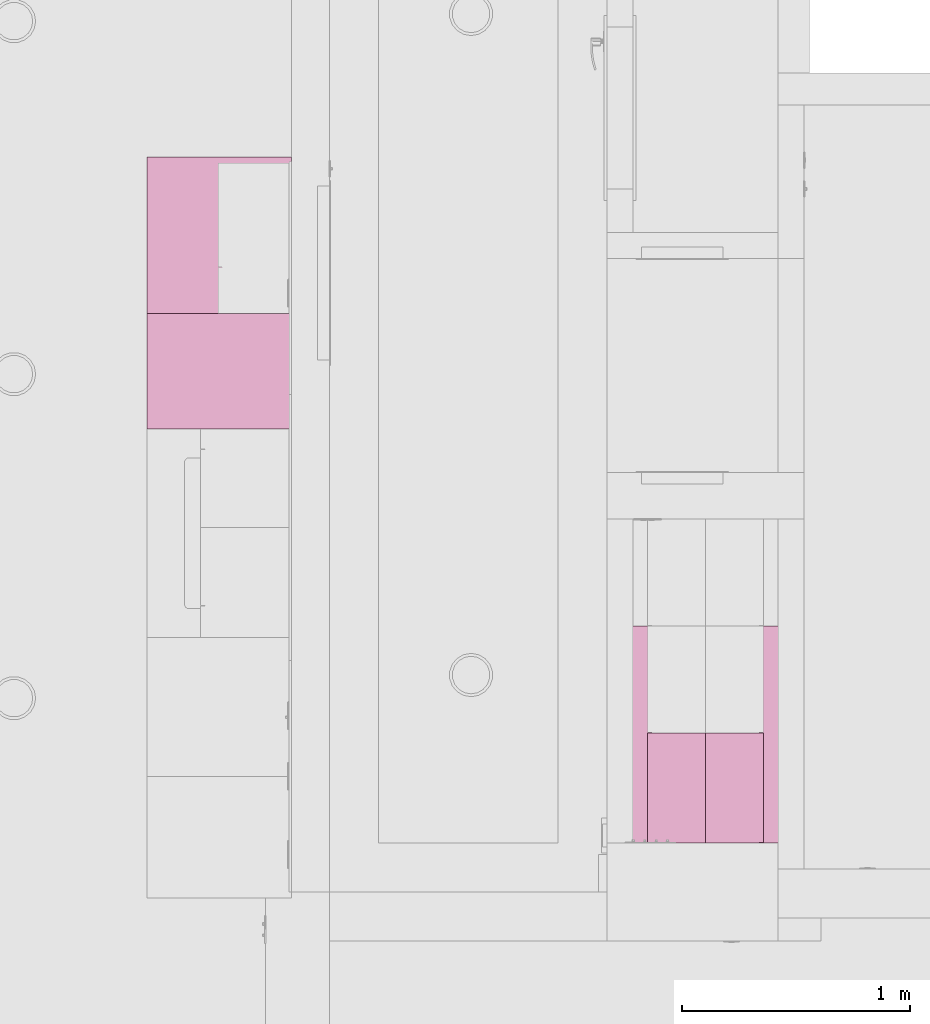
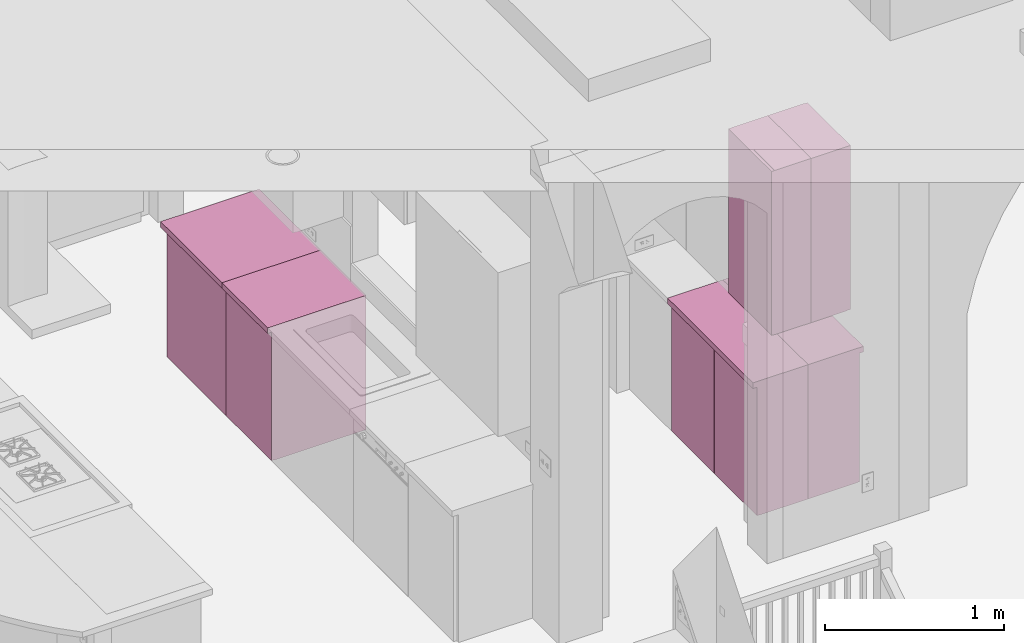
# One storey, part 48 of 103: 6 furnishings.
"""IFC2X3 building model written with IfcOpenShell, lengths in inches."""

from ifc_helpers import new_model, entity, si_unit, converted_unit, derived_unit, money_unit, direction, frame, origin_with_axes, place, context, subcontext, project, spatial, faceted_brep, type_object, element, save


model = new_model("IFC2X3")

# Units and contexts
model_context = context("Model", 3, precision=0.00039370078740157, world=origin_with_axes(), true_north=direction((0.0, 1.0)))
plan_context = context("Plan", 3, precision=0.00039370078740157, world=origin_with_axes(), true_north=direction((0.0, 1.0)))
body_context = subcontext(model_context, "Body", "Model", "MODEL_VIEW")
ifc_project = project(units=[converted_unit("LENGTHUNIT", "INCH", entity("IfcPositiveLengthMeasure", 0.0254), si_unit("LENGTHUNIT", "METRE"), dimensions=[1, 0, 0, 0, 0, 0, 0]), converted_unit("AREAUNIT", "SQUARE_FOOT", entity("IfcPositiveLengthMeasure", 0.09290304), si_unit("AREAUNIT", "SQUARE_METRE"), dimensions=[2, 0, 0, 0, 0, 0, 0]), si_unit("PLANEANGLEUNIT", "RADIAN"), si_unit("SOLIDANGLEUNIT", "STERADIAN"), money_unit("USD"), converted_unit("TIMEUNIT", "Year", entity("IfcTimeMeasure", 31557600.0), si_unit("TIMEUNIT", "SECOND"), dimensions=[0, 0, 1, 0, 0, 0, 0]), si_unit("MASSUNIT", "GRAM", prefix="KILO"), si_unit("THERMODYNAMICTEMPERATUREUNIT", "DEGREE_CELSIUS"), si_unit("LUMINOUSINTENSITYUNIT", "LUMEN"), si_unit("ENERGYUNIT", "JOULE", prefix="MEGA"), derived_unit("SPECIFICHEATCAPACITYUNIT", [(si_unit("ENERGYUNIT", "JOULE"), 1), (si_unit("MASSUNIT", "GRAM", prefix="KILO"), -1), (si_unit("THERMODYNAMICTEMPERATUREUNIT", "KELVIN"), -1)])], contexts=[model_context, plan_context])

# Site, building, storey
site_placement = place(None, origin_with_axes())
site = spatial("IfcSite", under=ifc_project, at=site_placement, Name="Site", CompositionType="ELEMENT")
building_placement = place(site_placement, origin_with_axes())
building = spatial("IfcBuilding", under=site, at=building_placement, Name="Building", CompositionType="ELEMENT")
storey_placement = place(building_placement, frame((0.0, 0.0, 127.9999999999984), z_axis=(0.0, 0.0, 1.0), x_axis=(1.0, 0.0, 0.0)))
storey = spatial("IfcBuildingStorey", under=building, at=storey_placement, Name="Second Floor", CompositionType="ELEMENT", Elevation=128.0)

# Furnishings
furniture_type_1 = type_object("IfcFurnitureType", Name="Base Cabinet Block", AssemblyPlace="NOTDEFINED")
furnishing_1_placement = place(storey_placement, frame((225.749999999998, 205.4999999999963, 0.0), z_axis=(0.0, 0.0, 1.0), x_axis=(0.0, 1.0, 0.0)))
element("IfcFurnishingElement", 1, at=furnishing_1_placement, inside=storey, type_object=furniture_type_1, Name="FU - 004", context=body_context, shape_type="Brep", body=[
    faceted_brep([(0.0, -13.99999999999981, 34.49999999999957), (37.50284154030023, -13.99999999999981, 34.49999999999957), (37.50284154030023, -13.99999999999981, 35.99999999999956), (0.0, -13.99999999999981, 35.99999999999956), (0.0, 0.0, 34.49999999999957), (37.50284154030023, 0.0, 34.49999999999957), (37.50284154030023, 0.0, 35.99999999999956), (0.0, 0.0, 35.99999999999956)], [[[0, 1, 2, 3]], [[0, 4, 5, 1]], [[1, 5, 6, 2]], [[3, 2, 6, 7]], [[4, 0, 3, 7]], [[5, 4, 7, 6]]]),
    faceted_brep([(0.039370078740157, -12.24999999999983, 0.039370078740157), (18.71205069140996, -12.24999999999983, 0.039370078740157), (18.71205069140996, -12.99999999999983, 0.03937007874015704), (0.039370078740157, -12.99999999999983, 0.03937007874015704), (0.039370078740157, -12.24999999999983, 34.46062992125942), (18.71205069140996, -12.24999999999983, 34.46062992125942), (18.71205069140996, -12.99999999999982, 34.46062992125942), (0.039370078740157, -12.99999999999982, 34.46062992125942)], [[[0, 1, 2, 3]], [[0, 4, 5, 1]], [[1, 5, 6, 2]], [[3, 2, 6, 7]], [[4, 0, 3, 7]], [[5, 4, 7, 6]]]),
    faceted_brep([(37.46347146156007, -12.24999999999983, 0.03937007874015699), (37.46347146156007, -12.99999999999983, 0.03937007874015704), (18.79079084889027, -12.99999999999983, 0.03937007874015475), (18.79079084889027, -12.24999999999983, 0.0393700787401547), (37.46347146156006, -12.24999999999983, 34.46062992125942), (37.46347146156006, -12.99999999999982, 34.46062992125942), (18.79079084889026, -12.99999999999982, 34.46062992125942), (18.79079084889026, -12.24999999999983, 34.46062992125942)], [[[0, 1, 2, 3]], [[4, 5, 1, 0]], [[1, 5, 6, 2]], [[3, 2, 6, 7]], [[0, 3, 7, 4]], [[7, 6, 5, 4]]]),
    faceted_brep([(0.7499999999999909, -12.24999999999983, 0.0), (36.75284154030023, -12.24999999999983, 0.0), (36.75284154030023, -12.24999999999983, 0.7499999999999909), (0.7499999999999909, -12.24999999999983, 0.7499999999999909), (0.7499999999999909, 0.0, 0.0), (36.75284154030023, 0.0, 0.0), (36.75284154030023, 0.0, 0.7499999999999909), (0.7499999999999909, 0.0, 0.7499999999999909)], [[[0, 1, 2, 3]], [[0, 4, 5, 1]], [[1, 5, 6, 2]], [[3, 2, 6, 7]], [[4, 0, 3, 7]], [[5, 4, 7, 6]]]),
    faceted_brep([(0.7499999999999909, -12.24999999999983, 33.74999999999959), (0.7499999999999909, -9.887795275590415, 33.74999999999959), (36.75284154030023, -9.887795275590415, 33.74999999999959), (36.75284154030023, -12.24999999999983, 33.74999999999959), (0.7499999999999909, -12.24999999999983, 34.49999999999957), (0.7499999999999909, -9.887795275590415, 34.49999999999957), (36.75284154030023, -9.887795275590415, 34.49999999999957), (36.75284154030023, -12.24999999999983, 34.49999999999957)], [[[0, 1, 2, 3]], [[0, 4, 5, 1]], [[1, 5, 6, 2]], [[3, 2, 6, 7]], [[4, 0, 3, 7]], [[5, 4, 7, 6]]]),
    faceted_brep([(36.75284154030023, 0.0, 33.74999999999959), (36.75284154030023, -2.36220472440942, 33.74999999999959), (0.7499999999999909, -2.36220472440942, 33.74999999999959), (0.7499999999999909, 0.0, 33.74999999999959), (36.75284154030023, 0.0, 34.49999999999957), (36.75284154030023, -2.36220472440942, 34.49999999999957), (0.7499999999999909, -2.36220472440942, 34.49999999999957), (0.7499999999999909, 0.0, 34.49999999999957)], [[[0, 1, 2, 3]], [[0, 4, 5, 1]], [[1, 5, 6, 2]], [[3, 2, 6, 7]], [[4, 0, 3, 7]], [[5, 4, 7, 6]]]),
    faceted_brep([(0.0, 0.0, 0.0), (0.0, -12.24999999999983, 0.0), (0.0, -12.24999999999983, 34.49999999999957), (0.0, 0.0, 34.49999999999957), (0.7499999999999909, 0.0, 0.0), (0.7499999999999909, -12.24999999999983, 0.0), (0.7499999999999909, -12.24999999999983, 34.49999999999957), (0.7499999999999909, 0.0, 34.49999999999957)], [[[0, 1, 2, 3]], [[0, 4, 5, 1]], [[1, 5, 6, 2]], [[3, 2, 6, 7]], [[4, 0, 3, 7]], [[5, 4, 7, 6]]]),
    faceted_brep([(37.50284154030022, -12.24999999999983, 0.0), (37.50284154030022, 0.0, 0.0), (37.50284154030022, 0.0, 34.49999999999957), (37.50284154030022, -12.24999999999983, 34.49999999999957), (36.75284154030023, -12.24999999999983, 0.0), (36.75284154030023, 0.0, 0.0), (36.75284154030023, 0.0, 34.49999999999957), (36.75284154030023, -12.24999999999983, 34.49999999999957)], [[[0, 1, 2, 3]], [[0, 4, 5, 1]], [[1, 5, 6, 2]], [[3, 2, 6, 7]], [[4, 0, 3, 7]], [[5, 4, 7, 6]]]),
    faceted_brep([(36.75284154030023, -0.3749999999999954, 0.7499999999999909), (0.7499999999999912, -0.3749999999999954, 0.7499999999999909), (0.7499999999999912, -0.3749999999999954, 33.74999999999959), (36.75284154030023, -0.3749999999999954, 33.74999999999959), (36.75284154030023, -0.7499999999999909, 0.7499999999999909), (0.7499999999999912, -0.7499999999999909, 0.7499999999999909), (0.7499999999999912, -0.7499999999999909, 33.74999999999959), (36.75284154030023, -0.7499999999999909, 33.74999999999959)], [[[0, 1, 2, 3]], [[0, 4, 5, 1]], [[1, 5, 6, 2]], [[3, 2, 6, 7]], [[4, 0, 3, 7]], [[5, 4, 7, 6]]]),
])
furnishing_2_placement = place(storey_placement, frame((154.9996173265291, 324.0007128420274, 0.0), z_axis=(0.0, 0.0, 1.0), x_axis=(2.019381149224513e-06, -0.9999999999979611, 0.0)))
element("IfcFurnishingElement", 2, at=furnishing_2_placement, inside=storey, type_object=furniture_type_1, Name="OBJ-16", context=body_context, shape_type="Brep", body=[
    faceted_brep([(0.0, -24.99999999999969, 34.49999999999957), (26.99999999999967, -24.99999999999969, 34.49999999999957), (26.99999999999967, -24.99999999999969, 35.99999999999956), (0.0, -24.99999999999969, 35.99999999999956), (0.0, 0.0, 34.49999999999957), (26.99999999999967, 0.0, 34.49999999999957), (26.99999999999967, 0.0, 35.99999999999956), (0.0, 0.0, 35.99999999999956)], [[[0, 1, 2, 3]], [[0, 4, 5, 1]], [[1, 5, 6, 2]], [[3, 2, 6, 7]], [[4, 0, 3, 7]], [[5, 4, 7, 6]]]),
    faceted_brep([(1.039370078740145, -23.24999999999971, 0.039370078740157), (13.96062992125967, -23.24999999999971, 0.039370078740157), (13.96062992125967, -23.9999999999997, 0.03937007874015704), (1.039370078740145, -23.9999999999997, 0.03937007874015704), (1.039370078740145, -23.24999999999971, 34.46062992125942), (13.96062992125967, -23.24999999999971, 34.46062992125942), (13.96062992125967, -23.9999999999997, 34.46062992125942), (1.039370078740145, -23.9999999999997, 34.46062992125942)], [[[0, 1, 2, 3]], [[0, 4, 5, 1]], [[1, 5, 6, 2]], [[3, 2, 6, 7]], [[4, 0, 3, 7]], [[5, 4, 7, 6]]]),
    faceted_brep([(26.96062992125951, -23.24999999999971, 0.03937007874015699), (26.96062992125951, -23.9999999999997, 0.03937007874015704), (14.03937007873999, -23.9999999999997, 0.03937007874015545), (14.03937007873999, -23.24999999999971, 0.03937007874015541), (26.96062992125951, -23.24999999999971, 34.46062992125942), (26.96062992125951, -23.9999999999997, 34.46062992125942), (14.03937007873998, -23.9999999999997, 34.46062992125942), (14.03937007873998, -23.24999999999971, 34.46062992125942)], [[[0, 1, 2, 3]], [[4, 5, 1, 0]], [[1, 5, 6, 2]], [[3, 2, 6, 7]], [[0, 3, 7, 4]], [[7, 6, 5, 4]]]),
    faceted_brep([(0.9999999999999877, -0.039370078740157, 0.039370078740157), (0.9999999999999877, -23.21062992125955, 0.039370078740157), (0.2499999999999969, -23.21062992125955, 0.03937007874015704), (0.2499999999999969, -0.039370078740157, 0.03937007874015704), (0.9999999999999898, -0.039370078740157, 34.46062992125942), (0.9999999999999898, -23.21062992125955, 34.46062992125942), (0.2499999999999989, -23.21062992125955, 34.46062992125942), (0.2499999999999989, -0.039370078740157, 34.46062992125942)], [[[0, 1, 2, 3]], [[0, 4, 5, 1]], [[1, 5, 6, 2]], [[3, 2, 6, 7]], [[4, 0, 3, 7]], [[5, 4, 7, 6]]]),
    faceted_brep([(1.749999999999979, -23.24999999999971, 0.0), (26.24999999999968, -23.24999999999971, 0.0), (26.24999999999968, -23.24999999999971, 0.7499999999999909), (1.749999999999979, -23.24999999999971, 0.7499999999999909), (1.749999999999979, 0.0, 0.0), (26.24999999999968, 0.0, 0.0), (26.24999999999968, 0.0, 0.7499999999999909), (1.749999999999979, 0.0, 0.7499999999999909)], [[[0, 1, 2, 3]], [[0, 4, 5, 1]], [[1, 5, 6, 2]], [[3, 2, 6, 7]], [[4, 0, 3, 7]], [[5, 4, 7, 6]]]),
    faceted_brep([(1.749999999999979, -23.24999999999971, 33.74999999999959), (1.749999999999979, -20.88779527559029, 33.74999999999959), (26.24999999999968, -20.88779527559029, 33.74999999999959), (26.24999999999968, -23.24999999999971, 33.74999999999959), (1.749999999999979, -23.24999999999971, 34.49999999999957), (1.749999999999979, -20.88779527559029, 34.49999999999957), (26.24999999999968, -20.88779527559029, 34.49999999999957), (26.24999999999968, -23.24999999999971, 34.49999999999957)], [[[0, 1, 2, 3]], [[0, 4, 5, 1]], [[1, 5, 6, 2]], [[3, 2, 6, 7]], [[4, 0, 3, 7]], [[5, 4, 7, 6]]]),
    faceted_brep([(26.24999999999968, 0.0, 33.74999999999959), (26.24999999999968, -2.36220472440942, 33.74999999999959), (1.749999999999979, -2.36220472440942, 33.74999999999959), (1.749999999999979, 0.0, 33.74999999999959), (26.24999999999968, 0.0, 34.49999999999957), (26.24999999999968, -2.36220472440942, 34.49999999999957), (1.749999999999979, -2.36220472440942, 34.49999999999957), (1.749999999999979, 0.0, 34.49999999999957)], [[[0, 1, 2, 3]], [[0, 4, 5, 1]], [[1, 5, 6, 2]], [[3, 2, 6, 7]], [[4, 0, 3, 7]], [[5, 4, 7, 6]]]),
    faceted_brep([(0.9999999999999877, 0.0, 0.0), (0.9999999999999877, -23.24999999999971, 0.0), (0.9999999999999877, -23.24999999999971, 34.49999999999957), (0.9999999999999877, 0.0, 34.49999999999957), (1.749999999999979, 0.0, 0.0), (1.749999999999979, -23.24999999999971, 0.0), (1.749999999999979, -23.24999999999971, 34.49999999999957), (1.749999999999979, 0.0, 34.49999999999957)], [[[0, 1, 2, 3]], [[0, 4, 5, 1]], [[1, 5, 6, 2]], [[3, 2, 6, 7]], [[4, 0, 3, 7]], [[5, 4, 7, 6]]]),
    faceted_brep([(26.99999999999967, -23.24999999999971, 0.0), (26.99999999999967, 0.0, 0.0), (26.99999999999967, 0.0, 34.49999999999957), (26.99999999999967, -23.24999999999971, 34.49999999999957), (26.24999999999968, -23.24999999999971, 0.0), (26.24999999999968, 0.0, 0.0), (26.24999999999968, 0.0, 34.49999999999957), (26.24999999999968, -23.24999999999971, 34.49999999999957)], [[[0, 1, 2, 3]], [[0, 4, 5, 1]], [[1, 5, 6, 2]], [[3, 2, 6, 7]], [[4, 0, 3, 7]], [[5, 4, 7, 6]]]),
    faceted_brep([(26.24999999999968, -0.3749999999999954, 0.7499999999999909), (1.749999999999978, -0.3749999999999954, 0.7499999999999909), (1.749999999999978, -0.3749999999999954, 33.74999999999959), (26.24999999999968, -0.3749999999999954, 33.74999999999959), (26.24999999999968, -0.7499999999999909, 0.7499999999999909), (1.749999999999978, -0.7499999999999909, 0.7499999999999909), (1.749999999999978, -0.7499999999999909, 33.74999999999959), (26.24999999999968, -0.7499999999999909, 33.74999999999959)], [[[0, 1, 2, 3]], [[0, 4, 5, 1]], [[1, 5, 6, 2]], [[3, 2, 6, 7]], [[4, 0, 3, 7]], [[5, 4, 7, 6]]]),
])
furnishing_3_placement = place(storey_placement, frame((154.99967184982, 297.0007128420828, 0.0), z_axis=(0.0, 0.0, 1.0), x_axis=(2.019381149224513e-06, -0.9999999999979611, 0.0)))
element("IfcFurnishingElement", 3, at=furnishing_3_placement, inside=storey, type_object=furniture_type_1, Name="OBJ-16", context=body_context, shape_type="Brep", body=[
    faceted_brep([(0.0, -24.99999999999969, 34.49999999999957), (19.99999999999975, -24.99999999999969, 34.49999999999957), (19.99999999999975, -24.99999999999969, 35.99999999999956), (0.0, -24.99999999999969, 35.99999999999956), (0.0, 0.0, 34.49999999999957), (19.99999999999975, 0.0, 34.49999999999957), (19.99999999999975, 0.0, 35.99999999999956), (0.0, 0.0, 35.99999999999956)], [[[0, 1, 2, 3]], [[0, 4, 5, 1]], [[1, 5, 6, 2]], [[3, 2, 6, 7]], [[4, 0, 3, 7]], [[5, 4, 7, 6]]]),
    faceted_brep([(0.039370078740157, -23.24999999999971, 0.039370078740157), (19.9606299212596, -23.24999999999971, 0.039370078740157), (19.9606299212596, -23.9999999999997, 0.03937007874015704), (0.039370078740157, -23.9999999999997, 0.03937007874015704), (0.039370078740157, -23.24999999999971, 34.46062992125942), (19.9606299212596, -23.24999999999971, 34.46062992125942), (19.9606299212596, -23.9999999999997, 34.46062992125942), (0.039370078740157, -23.9999999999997, 34.46062992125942)], [[[0, 1, 2, 3]], [[0, 4, 5, 1]], [[1, 5, 6, 2]], [[3, 2, 6, 7]], [[4, 0, 3, 7]], [[5, 4, 7, 6]]]),
    faceted_brep([(0.7499999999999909, -23.24999999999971, 0.0), (19.24999999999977, -23.24999999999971, 0.0), (19.24999999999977, -23.24999999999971, 0.7499999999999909), (0.7499999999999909, -23.24999999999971, 0.7499999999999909), (0.7499999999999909, 0.0, 0.0), (19.24999999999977, 0.0, 0.0), (19.24999999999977, 0.0, 0.7499999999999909), (0.7499999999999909, 0.0, 0.7499999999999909)], [[[0, 1, 2, 3]], [[0, 4, 5, 1]], [[1, 5, 6, 2]], [[3, 2, 6, 7]], [[4, 0, 3, 7]], [[5, 4, 7, 6]]]),
    faceted_brep([(0.7499999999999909, -23.24999999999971, 33.74999999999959), (0.7499999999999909, -20.88779527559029, 33.74999999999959), (19.24999999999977, -20.88779527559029, 33.74999999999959), (19.24999999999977, -23.24999999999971, 33.74999999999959), (0.7499999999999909, -23.24999999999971, 34.49999999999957), (0.7499999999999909, -20.88779527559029, 34.49999999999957), (19.24999999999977, -20.88779527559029, 34.49999999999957), (19.24999999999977, -23.24999999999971, 34.49999999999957)], [[[0, 1, 2, 3]], [[0, 4, 5, 1]], [[1, 5, 6, 2]], [[3, 2, 6, 7]], [[4, 0, 3, 7]], [[5, 4, 7, 6]]]),
    faceted_brep([(19.24999999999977, 0.0, 33.74999999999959), (19.24999999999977, -2.36220472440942, 33.74999999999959), (0.7499999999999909, -2.36220472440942, 33.74999999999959), (0.7499999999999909, 0.0, 33.74999999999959), (19.24999999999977, 0.0, 34.49999999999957), (19.24999999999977, -2.36220472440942, 34.49999999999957), (0.7499999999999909, -2.36220472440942, 34.49999999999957), (0.7499999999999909, 0.0, 34.49999999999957)], [[[0, 1, 2, 3]], [[0, 4, 5, 1]], [[1, 5, 6, 2]], [[3, 2, 6, 7]], [[4, 0, 3, 7]], [[5, 4, 7, 6]]]),
    faceted_brep([(0.0, 0.0, 0.0), (0.0, -23.24999999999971, 0.0), (0.0, -23.24999999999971, 34.49999999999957), (0.0, 0.0, 34.49999999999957), (0.7499999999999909, 0.0, 0.0), (0.7499999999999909, -23.24999999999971, 0.0), (0.7499999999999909, -23.24999999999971, 34.49999999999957), (0.7499999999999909, 0.0, 34.49999999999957)], [[[0, 1, 2, 3]], [[0, 4, 5, 1]], [[1, 5, 6, 2]], [[3, 2, 6, 7]], [[4, 0, 3, 7]], [[5, 4, 7, 6]]]),
    faceted_brep([(19.99999999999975, -23.24999999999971, 0.0), (19.99999999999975, 0.0, 0.0), (19.99999999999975, 0.0, 34.49999999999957), (19.99999999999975, -23.24999999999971, 34.49999999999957), (19.24999999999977, -23.24999999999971, 0.0), (19.24999999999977, 0.0, 0.0), (19.24999999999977, 0.0, 34.49999999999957), (19.24999999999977, -23.24999999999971, 34.49999999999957)], [[[0, 1, 2, 3]], [[0, 4, 5, 1]], [[1, 5, 6, 2]], [[3, 2, 6, 7]], [[4, 0, 3, 7]], [[5, 4, 7, 6]]]),
    faceted_brep([(19.24999999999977, -0.3749999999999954, 0.7499999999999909), (0.7499999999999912, -0.3749999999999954, 0.7499999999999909), (0.7499999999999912, -0.3749999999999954, 33.74999999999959), (19.24999999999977, -0.3749999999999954, 33.74999999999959), (19.24999999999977, -0.7499999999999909, 0.7499999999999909), (0.7499999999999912, -0.7499999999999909, 0.7499999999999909), (0.7499999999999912, -0.7499999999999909, 33.74999999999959), (19.24999999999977, -0.7499999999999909, 33.74999999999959)], [[[0, 1, 2, 3]], [[0, 4, 5, 1]], [[1, 5, 6, 2]], [[3, 2, 6, 7]], [[4, 0, 3, 7]], [[5, 4, 7, 6]]]),
])
furnishing_4_placement = place(storey_placement, frame((225.749999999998, 205.4999999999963, 0.0), z_axis=(0.0, 0.0, 1.0), x_axis=(0.0, -1.0, 0.0)))
element("IfcFurnishingElement", 4, at=furnishing_4_placement, inside=storey, type_object=furniture_type_1, Name="FU - 004", context=body_context, shape_type="Brep", body=[
    faceted_brep([(0.0, -13.99999999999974, 34.49999999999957), (0.0, -13.99999999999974, 35.99999999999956), (-37.50284154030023, -13.99999999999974, 35.99999999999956), (-37.50284154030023, -13.99999999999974, 34.49999999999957), (0.0, 0.0, 34.49999999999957), (0.0, 0.0, 35.99999999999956), (-37.50284154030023, 0.0, 35.99999999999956), (-37.50284154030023, 0.0, 34.49999999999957)], [[[0, 1, 2, 3]], [[4, 5, 1, 0]], [[1, 5, 6, 2]], [[3, 2, 6, 7]], [[0, 3, 7, 4]], [[7, 6, 5, 4]]]),
    faceted_brep([(-0.039370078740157, -12.24999999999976, 0.039370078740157), (-0.039370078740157, -12.99999999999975, 0.03937007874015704), (-18.71205069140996, -12.99999999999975, 0.03937007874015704), (-18.71205069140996, -12.24999999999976, 0.039370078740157), (-0.039370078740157, -12.24999999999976, 34.46062992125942), (-0.039370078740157, -12.99999999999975, 34.46062992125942), (-18.71205069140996, -12.99999999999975, 34.46062992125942), (-18.71205069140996, -12.24999999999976, 34.46062992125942)], [[[0, 1, 2, 3]], [[4, 5, 1, 0]], [[1, 5, 6, 2]], [[3, 2, 6, 7]], [[0, 3, 7, 4]], [[7, 6, 5, 4]]]),
    faceted_brep([(-37.46347146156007, -12.24999999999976, 0.03937007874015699), (-18.79079084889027, -12.24999999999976, 0.0393700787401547), (-18.79079084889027, -12.99999999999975, 0.03937007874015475), (-37.46347146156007, -12.99999999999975, 0.03937007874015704), (-37.46347146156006, -12.24999999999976, 34.46062992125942), (-18.79079084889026, -12.24999999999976, 34.46062992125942), (-18.79079084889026, -12.99999999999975, 34.46062992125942), (-37.46347146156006, -12.99999999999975, 34.46062992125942)], [[[0, 1, 2, 3]], [[0, 4, 5, 1]], [[1, 5, 6, 2]], [[3, 2, 6, 7]], [[4, 0, 3, 7]], [[5, 4, 7, 6]]]),
    faceted_brep([(-0.7499999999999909, -12.24999999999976, 0.0), (-0.7499999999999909, -12.24999999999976, 0.7499999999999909), (-36.75284154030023, -12.24999999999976, 0.7499999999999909), (-36.75284154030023, -12.24999999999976, 0.0), (-0.7499999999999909, 0.0, 0.0), (-0.7499999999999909, 0.0, 0.7499999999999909), (-36.75284154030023, 0.0, 0.7499999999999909), (-36.75284154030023, 0.0, 0.0)], [[[0, 1, 2, 3]], [[4, 5, 1, 0]], [[1, 5, 6, 2]], [[3, 2, 6, 7]], [[0, 3, 7, 4]], [[7, 6, 5, 4]]]),
    faceted_brep([(-0.7499999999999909, -12.24999999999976, 33.74999999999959), (-36.75284154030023, -12.24999999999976, 33.74999999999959), (-36.75284154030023, -9.887795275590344, 33.74999999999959), (-0.7499999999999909, -9.887795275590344, 33.74999999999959), (-0.7499999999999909, -12.24999999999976, 34.49999999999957), (-36.75284154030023, -12.24999999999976, 34.49999999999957), (-36.75284154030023, -9.887795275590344, 34.49999999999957), (-0.7499999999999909, -9.887795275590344, 34.49999999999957)], [[[0, 1, 2, 3]], [[4, 5, 1, 0]], [[1, 5, 6, 2]], [[3, 2, 6, 7]], [[0, 3, 7, 4]], [[7, 6, 5, 4]]]),
    faceted_brep([(-36.75284154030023, 0.0, 33.74999999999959), (-0.7499999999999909, 0.0, 33.74999999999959), (-0.7499999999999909, -2.36220472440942, 33.74999999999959), (-36.75284154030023, -2.36220472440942, 33.74999999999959), (-36.75284154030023, 0.0, 34.49999999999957), (-0.7499999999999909, 0.0, 34.49999999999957), (-0.7499999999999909, -2.36220472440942, 34.49999999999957), (-36.75284154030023, -2.36220472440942, 34.49999999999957)], [[[0, 1, 2, 3]], [[4, 5, 1, 0]], [[1, 5, 6, 2]], [[3, 2, 6, 7]], [[0, 3, 7, 4]], [[7, 6, 5, 4]]]),
    faceted_brep([(0.0, 0.0, 0.0), (0.0, 0.0, 34.49999999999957), (0.0, -12.24999999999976, 34.49999999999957), (0.0, -12.24999999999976, 0.0), (-0.7499999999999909, 0.0, 0.0), (-0.7499999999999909, 0.0, 34.49999999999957), (-0.7499999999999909, -12.24999999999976, 34.49999999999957), (-0.7499999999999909, -12.24999999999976, 0.0)], [[[0, 1, 2, 3]], [[4, 5, 1, 0]], [[1, 5, 6, 2]], [[3, 2, 6, 7]], [[0, 3, 7, 4]], [[7, 6, 5, 4]]]),
    faceted_brep([(-37.50284154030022, -12.24999999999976, 0.0), (-37.50284154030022, -12.24999999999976, 34.49999999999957), (-37.50284154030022, 0.0, 34.49999999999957), (-37.50284154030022, 0.0, 0.0), (-36.75284154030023, -12.24999999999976, 0.0), (-36.75284154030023, -12.24999999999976, 34.49999999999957), (-36.75284154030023, 0.0, 34.49999999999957), (-36.75284154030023, 0.0, 0.0)], [[[0, 1, 2, 3]], [[4, 5, 1, 0]], [[1, 5, 6, 2]], [[3, 2, 6, 7]], [[0, 3, 7, 4]], [[7, 6, 5, 4]]]),
    faceted_brep([(-36.75284154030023, -0.3749999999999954, 0.7499999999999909), (-36.75284154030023, -0.3749999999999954, 33.74999999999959), (-0.7499999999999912, -0.3749999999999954, 33.74999999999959), (-0.7499999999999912, -0.3749999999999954, 0.7499999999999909), (-36.75284154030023, -0.7499999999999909, 0.7499999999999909), (-36.75284154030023, -0.7499999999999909, 33.74999999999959), (-0.7499999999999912, -0.7499999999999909, 33.74999999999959), (-0.7499999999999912, -0.7499999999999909, 0.7499999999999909)], [[[0, 1, 2, 3]], [[4, 5, 1, 0]], [[1, 5, 6, 2]], [[3, 2, 6, 7]], [[0, 3, 7, 4]], [[7, 6, 5, 4]]]),
])
furniture_type_2 = type_object("IfcFurnitureType", Name="Wall Cabinet Block", AssemblyPlace="NOTDEFINED")
furnishing_5_placement = place(storey_placement, frame((226.4999999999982, 205.4999999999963, -12.99999999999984), z_axis=(0.0, 0.0, 1.0), x_axis=(0.0, -1.0, 0.0)))
element("IfcFurnishingElement", 5, at=furnishing_5_placement, inside=storey, type_object=furniture_type_2, Name="FU - 005", context=body_context, shape_type="Brep", body=[
    faceted_brep([(-0.039370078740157, -9.249999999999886, 60.03937007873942), (-0.039370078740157, -9.999999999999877, 60.03937007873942), (-18.96347146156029, -9.999999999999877, 60.03937007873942), (-18.96347146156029, -9.249999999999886, 60.03937007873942), (-0.039370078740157, -9.249999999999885, 103.9606299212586), (-0.039370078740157, -9.999999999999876, 103.9606299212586), (-18.96347146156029, -9.999999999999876, 103.9606299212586), (-18.96347146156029, -9.249999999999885, 103.9606299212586)], [[[0, 1, 2, 3]], [[4, 5, 1, 0]], [[1, 5, 6, 2]], [[3, 2, 6, 7]], [[0, 3, 7, 4]], [[7, 6, 5, 4]]]),
    faceted_brep([(-0.7499999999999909, -9.249999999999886, 59.99999999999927), (-0.7499999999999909, -9.249999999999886, 60.74999999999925), (-18.25284154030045, -9.249999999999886, 60.74999999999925), (-18.25284154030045, -9.249999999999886, 59.99999999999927), (-0.7499999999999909, 0.0, 59.99999999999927), (-0.7499999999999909, 0.0, 60.74999999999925), (-18.25284154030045, 0.0, 60.74999999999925), (-18.25284154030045, 0.0, 59.99999999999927)], [[[0, 1, 2, 3]], [[4, 5, 1, 0]], [[1, 5, 6, 2]], [[3, 2, 6, 7]], [[0, 3, 7, 4]], [[7, 6, 5, 4]]]),
    faceted_brep([(-0.7499999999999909, -9.249999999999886, 103.2499999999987), (-0.7499999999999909, -9.249999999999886, 103.9999999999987), (-18.25284154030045, -9.249999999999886, 103.9999999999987), (-18.25284154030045, -9.249999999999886, 103.2499999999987), (-0.7499999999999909, 0.0, 103.2499999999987), (-0.7499999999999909, 0.0, 103.9999999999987), (-18.25284154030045, 0.0, 103.9999999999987), (-18.25284154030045, 0.0, 103.2499999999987)], [[[0, 1, 2, 3]], [[4, 5, 1, 0]], [[1, 5, 6, 2]], [[3, 2, 6, 7]], [[0, 3, 7, 4]], [[7, 6, 5, 4]]]),
    faceted_brep([(0.0, 0.0, 59.99999999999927), (0.0, 0.0, 103.9999999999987), (0.0, -9.249999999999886, 103.9999999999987), (0.0, -9.249999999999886, 59.99999999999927), (-0.7499999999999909, 0.0, 59.99999999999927), (-0.7499999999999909, 0.0, 103.9999999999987), (-0.7499999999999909, -9.249999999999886, 103.9999999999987), (-0.7499999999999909, -9.249999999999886, 59.99999999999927)], [[[0, 1, 2, 3]], [[4, 5, 1, 0]], [[1, 5, 6, 2]], [[3, 2, 6, 7]], [[0, 3, 7, 4]], [[7, 6, 5, 4]]]),
    faceted_brep([(-19.00284154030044, -9.249999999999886, 59.99999999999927), (-19.00284154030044, -9.249999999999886, 103.9999999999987), (-19.00284154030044, 0.0, 103.9999999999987), (-19.00284154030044, 0.0, 59.99999999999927), (-18.25284154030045, -9.249999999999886, 59.99999999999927), (-18.25284154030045, -9.249999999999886, 103.9999999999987), (-18.25284154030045, 0.0, 103.9999999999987), (-18.25284154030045, 0.0, 59.99999999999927)], [[[0, 1, 2, 3]], [[4, 5, 1, 0]], [[1, 5, 6, 2]], [[3, 2, 6, 7]], [[0, 3, 7, 4]], [[7, 6, 5, 4]]]),
    faceted_brep([(-18.25284154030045, -0.3749999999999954, 60.74999999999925), (-18.25284154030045, -0.3749999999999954, 103.2499999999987), (-0.7499999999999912, -0.3749999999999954, 103.2499999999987), (-0.7499999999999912, -0.3749999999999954, 60.74999999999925), (-18.25284154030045, -0.7499999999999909, 60.74999999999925), (-18.25284154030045, -0.7499999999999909, 103.2499999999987), (-0.7499999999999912, -0.7499999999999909, 103.2499999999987), (-0.7499999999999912, -0.7499999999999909, 60.74999999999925)], [[[0, 1, 2, 3]], [[4, 5, 1, 0]], [[1, 5, 6, 2]], [[3, 2, 6, 7]], [[0, 3, 7, 4]], [[7, 6, 5, 4]]]),
])
furnishing_6_placement = place(storey_placement, frame((226.4999999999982, 205.4999999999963, -12.99999999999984), z_axis=(0.0, 0.0, 1.0), x_axis=(0.0, 1.0, 0.0)))
element("IfcFurnishingElement", 6, at=furnishing_6_placement, inside=storey, type_object=furniture_type_2, Name="FU - 005", context=body_context, shape_type="Brep", body=[
    faceted_brep([(0.039370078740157, -9.249999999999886, 60.03937007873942), (18.96347146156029, -9.249999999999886, 60.03937007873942), (18.96347146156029, -9.999999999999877, 60.03937007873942), (0.039370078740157, -9.999999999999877, 60.03937007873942), (0.039370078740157, -9.249999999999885, 103.9606299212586), (18.96347146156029, -9.249999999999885, 103.9606299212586), (18.96347146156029, -9.999999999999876, 103.9606299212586), (0.039370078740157, -9.999999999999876, 103.9606299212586)], [[[0, 1, 2, 3]], [[0, 4, 5, 1]], [[1, 5, 6, 2]], [[3, 2, 6, 7]], [[4, 0, 3, 7]], [[5, 4, 7, 6]]]),
    faceted_brep([(0.7499999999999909, -9.249999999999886, 59.99999999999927), (18.25284154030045, -9.249999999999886, 59.99999999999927), (18.25284154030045, -9.249999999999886, 60.74999999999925), (0.7499999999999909, -9.249999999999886, 60.74999999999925), (0.7499999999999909, 0.0, 59.99999999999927), (18.25284154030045, 0.0, 59.99999999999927), (18.25284154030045, 0.0, 60.74999999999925), (0.7499999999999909, 0.0, 60.74999999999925)], [[[0, 1, 2, 3]], [[0, 4, 5, 1]], [[1, 5, 6, 2]], [[3, 2, 6, 7]], [[4, 0, 3, 7]], [[5, 4, 7, 6]]]),
    faceted_brep([(0.7499999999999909, -9.249999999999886, 103.2499999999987), (18.25284154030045, -9.249999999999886, 103.2499999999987), (18.25284154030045, -9.249999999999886, 103.9999999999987), (0.7499999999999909, -9.249999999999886, 103.9999999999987), (0.7499999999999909, 0.0, 103.2499999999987), (18.25284154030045, 0.0, 103.2499999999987), (18.25284154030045, 0.0, 103.9999999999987), (0.7499999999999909, 0.0, 103.9999999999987)], [[[0, 1, 2, 3]], [[0, 4, 5, 1]], [[1, 5, 6, 2]], [[3, 2, 6, 7]], [[4, 0, 3, 7]], [[5, 4, 7, 6]]]),
    faceted_brep([(0.0, 0.0, 59.99999999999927), (0.0, -9.249999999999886, 59.99999999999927), (0.0, -9.249999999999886, 103.9999999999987), (0.0, 0.0, 103.9999999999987), (0.7499999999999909, 0.0, 59.99999999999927), (0.7499999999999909, -9.249999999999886, 59.99999999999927), (0.7499999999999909, -9.249999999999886, 103.9999999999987), (0.7499999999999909, 0.0, 103.9999999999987)], [[[0, 1, 2, 3]], [[0, 4, 5, 1]], [[1, 5, 6, 2]], [[3, 2, 6, 7]], [[4, 0, 3, 7]], [[5, 4, 7, 6]]]),
    faceted_brep([(19.00284154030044, -9.249999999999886, 59.99999999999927), (19.00284154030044, 0.0, 59.99999999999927), (19.00284154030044, 0.0, 103.9999999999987), (19.00284154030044, -9.249999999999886, 103.9999999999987), (18.25284154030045, -9.249999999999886, 59.99999999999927), (18.25284154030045, 0.0, 59.99999999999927), (18.25284154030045, 0.0, 103.9999999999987), (18.25284154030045, -9.249999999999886, 103.9999999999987)], [[[0, 1, 2, 3]], [[0, 4, 5, 1]], [[1, 5, 6, 2]], [[3, 2, 6, 7]], [[4, 0, 3, 7]], [[5, 4, 7, 6]]]),
    faceted_brep([(18.25284154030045, -0.3749999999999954, 60.74999999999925), (0.7499999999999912, -0.3749999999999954, 60.74999999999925), (0.7499999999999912, -0.3749999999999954, 103.2499999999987), (18.25284154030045, -0.3749999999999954, 103.2499999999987), (18.25284154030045, -0.7499999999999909, 60.74999999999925), (0.7499999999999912, -0.7499999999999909, 60.74999999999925), (0.7499999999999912, -0.7499999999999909, 103.2499999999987), (18.25284154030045, -0.7499999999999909, 103.2499999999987)], [[[0, 1, 2, 3]], [[0, 4, 5, 1]], [[1, 5, 6, 2]], [[3, 2, 6, 7]], [[4, 0, 3, 7]], [[5, 4, 7, 6]]]),
])

save(model, "model.ifc")
